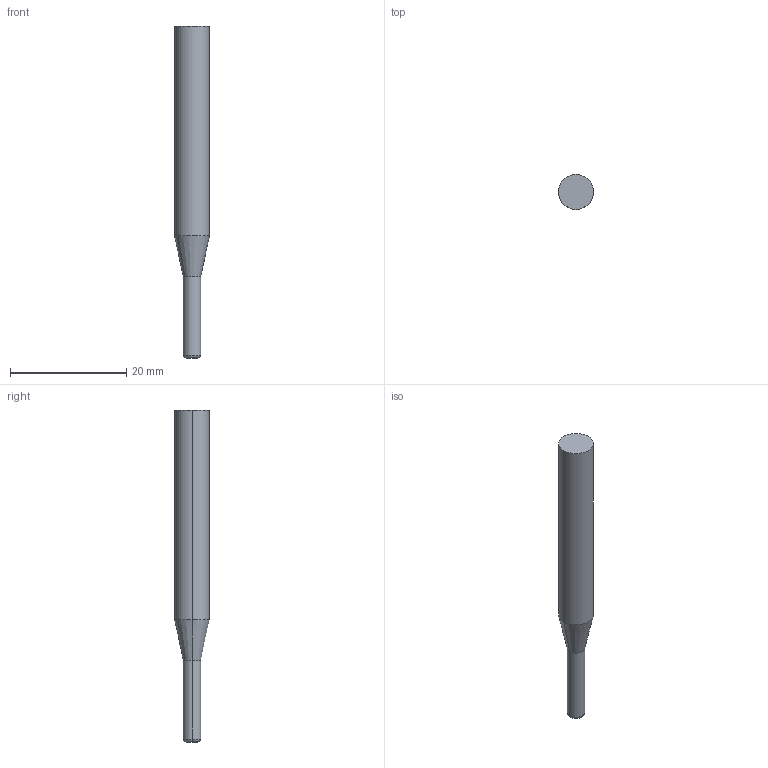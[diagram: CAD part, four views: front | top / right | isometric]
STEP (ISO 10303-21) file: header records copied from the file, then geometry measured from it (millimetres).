
FILE_DESCRIPTION(('STEP AP214'),'1');
FILE_NAME('cctmp_30DB062F-BD8A-4141-8172-D5B7CF7A041F_2020_10_01_07_21_31_0504..stp','2020-10-01T05:21:31',('Meusburger Georg GmbH & Co KG'),('CADClick - www.CADClick.com'),'Spatial InterOp 3D',' ','unknown authorization');
FILE_SCHEMA(('AUTOMOTIVE_DESIGN { 1 0 10303 214 1 1 1 1 }'));
Length unit declared in the file: millimetre
Products named in the file (1): WZF17576_3_0.5
Bounding box: 6 x 6 x 57 mm (x, y, z)
Volume: 1231.8 mm3; surface area: 944.9 mm2
Topology: 1 solids, 1 shells, 10 faces, 18 edges, 10 vertices
Faces by surface type: cylinder 4, cone 2, torus 2, plane 2
Entity records: 350 total; most frequent: DIRECTION 52, CARTESIAN_POINT 39, ORIENTED_EDGE 36, AXIS2_PLACEMENT_3D 23, EDGE_CURVE 18, CIRCLE 12, STYLED_ITEM 11, PRESENTATION_STYLE_ASSIGNMENT 11
